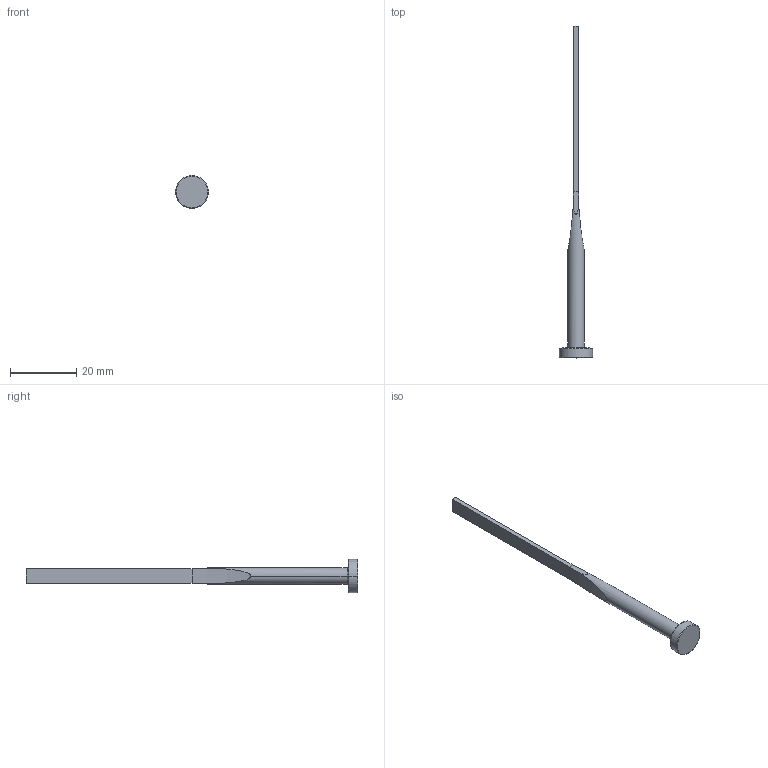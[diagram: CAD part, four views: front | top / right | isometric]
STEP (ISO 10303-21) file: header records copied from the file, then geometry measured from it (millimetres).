
FILE_DESCRIPTION (( 'STEP AP203' ), '1' );
FILE_NAME ('BE5-1.5L100.step', '2020-08-22T07:04:29', ( 'Microsoft Corporation' ), ( 'MS' ), 'SwSTEP 2.0', 'SolidWorks 2018', '' );
FILE_SCHEMA (( 'CONFIG_CONTROL_DESIGN' ));
Length unit declared in the file: millimetre
Products named in the file (1): BE5-1.5L100
Bounding box: 10 x 100 x 10 mm (x, y, z)
Volume: 1361.8 mm3; surface area: 1534.3 mm2
Topology: 1 solids, 1 shells, 21 faces, 44 edges, 26 vertices
Faces by surface type: cylinder 8, plane 7, cone 4, torus 2
Entity records: 741 total; most frequent: CARTESIAN_POINT 228, DIRECTION 92, ORIENTED_EDGE 88, EDGE_CURVE 44, AXIS2_PLACEMENT_3D 36, VERTEX_POINT 26, EDGE_LOOP 22, FACE_OUTER_BOUND 21
